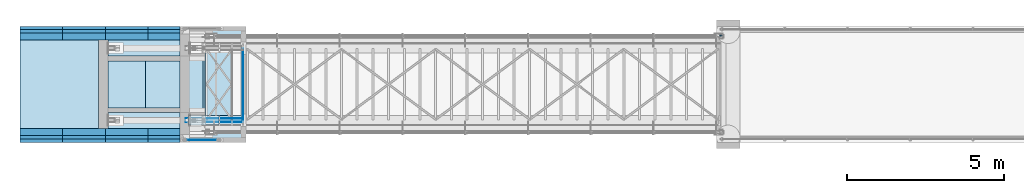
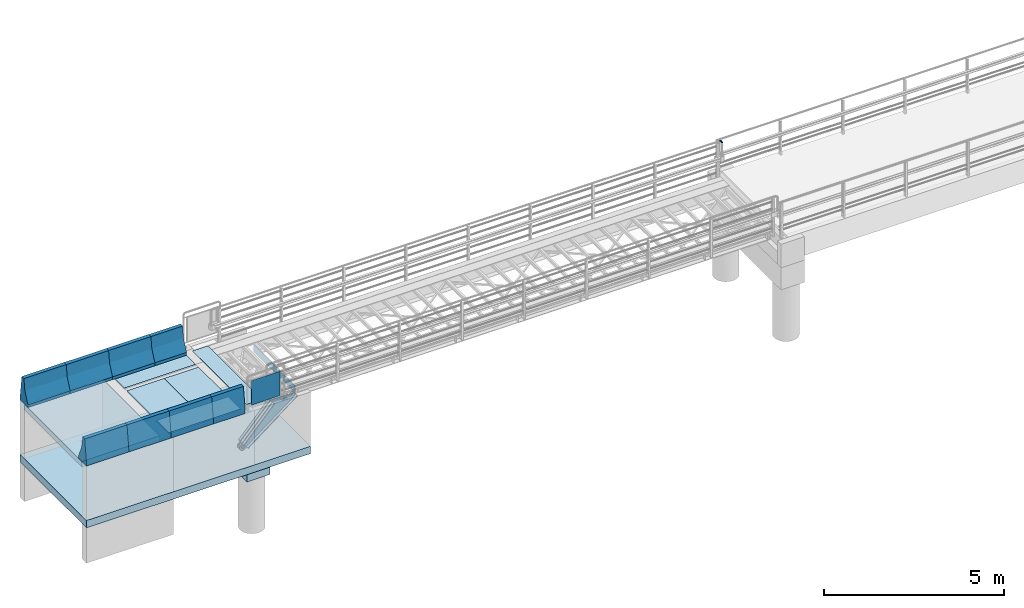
# One storey, part 25 of 31: 12 slabs, 10 plates, 1 beam.
"""IFC2X3 building model written with IfcOpenShell, lengths in millimetres."""

from ifc_helpers import new_model, si_unit, frame, origin_with_axes, place, context, subcontext, project, spatial, faceted_brep, material, type_object, element, save


model = new_model("IFC2X3")

# Units and contexts
model_context = context("Model", 3, precision=1e-05, world=origin_with_axes())
body_context = subcontext(model_context, "Body", "Model", "MODEL_VIEW")
ifc_project = project(units=[si_unit("LENGTHUNIT", "METRE", prefix="MILLI"), si_unit("AREAUNIT", "SQUARE_METRE"), si_unit("VOLUMEUNIT", "CUBIC_METRE"), si_unit("MASSUNIT", "GRAM", prefix="KILO"), si_unit("TIMEUNIT", "SECOND"), si_unit("PLANEANGLEUNIT", "RADIAN"), si_unit("SOLIDANGLEUNIT", "STERADIAN"), si_unit("THERMODYNAMICTEMPERATUREUNIT", "DEGREE_CELSIUS"), si_unit("LUMINOUSINTENSITYUNIT", "LUMEN")], contexts=[model_context])

# Site, building, storey
site_placement = place(None, origin_with_axes())
site = spatial("IfcSite", under=ifc_project, at=site_placement, Name="Undefined", CompositionType="ELEMENT")
building_placement = place(site_placement, origin_with_axes())
building = spatial("IfcBuilding", under=site, at=building_placement, Name="Undefined", CompositionType="ELEMENT")
storey_placement = place(building_placement, origin_with_axes())
storey = spatial("IfcBuildingStorey", under=building, at=storey_placement, Name="Undefined", CompositionType="ELEMENT", Elevation=0.0)

# Beam
ifc_material_1 = material(Name="STEEL/S355J2+N")
beam_type = type_object("IfcBeamType", Name="CFCHS60.3*3.2", PredefinedType="NOTDEFINED")
beam_placement = place(storey_placement, frame((19500.0, 2700.0, 1169.85), z_axis=(1.0, 0.0, 0.0), x_axis=(0.0, 0.0, -1.0)))
element("IfcBeam", 1, at=beam_placement, inside=storey, type_object=beam_type, material=ifc_material_1, Name="REKKVERK", context=body_context, shape_type="Brep", body=[
    faceted_brep([(11.5379054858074, -27.8549679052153, 0.0), (21.3192694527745, -21.3192694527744, 0.0), (23.9955348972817, -21.3192694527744, 16.8972750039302), (14.6929049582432, -27.8549679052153, 19.9198826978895), (31.7623597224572, -21.3192694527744, 32.1405270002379), (23.8490700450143, -27.8549679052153, 37.8898684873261), (43.8594729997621, -21.3192694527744, 44.2376402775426), (38.1101315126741, -27.8549679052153, 52.1509299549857), (59.10272499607, -21.3192694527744, 52.0044651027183), (56.0801173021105, -27.8549679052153, 61.3070950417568), (47.7010601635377, -11.5379054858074, 38.9501491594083), (61.1223668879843, -11.5379054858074, 45.7886465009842), (37.0498508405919, -11.5379054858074, 28.2989398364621), (30.2113534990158, -11.5379054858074, 14.8776331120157), (27.8549679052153, -11.5379054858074, 0.0), (30.1500000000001, 0.0, 0.0), (32.3940587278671, 0.0, 14.1684291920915), (38.9065708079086, 0.0, 26.9499538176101), (49.0500461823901, 0.0, 37.0934291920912), (61.8315708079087, 0.0, 43.6059412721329), (47.7010601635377, 11.5379054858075, 38.9501491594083), (61.1223668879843, 11.5379054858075, 45.7886465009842), (37.0498508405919, 11.5379054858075, 28.2989398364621), (30.2113534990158, 11.5379054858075, 14.8776331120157), (27.8549679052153, 11.5379054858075, 0.0), (21.3192694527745, 21.3192694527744, 0.0), (23.9955348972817, 21.3192694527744, 16.8972750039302), (31.7623597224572, 21.3192694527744, 32.1405270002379), (43.8594729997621, 21.3192694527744, 44.2376402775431), (59.10272499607, 21.3192694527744, 52.0044651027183), (38.1101315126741, 27.8549679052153, 52.1509299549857), (56.0801173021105, 27.8549679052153, 61.3070950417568), (23.8490700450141, 27.8549679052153, 37.8898684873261), (14.6929049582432, 27.8549679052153, 19.9198826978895), (11.5379054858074, 27.8549679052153, 0.0), (0.0, 30.15, 0.0), (3.71970476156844, 30.15, 23.485291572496), (14.514708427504, 30.15, 44.6716791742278), (31.3283208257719, 30.15, 61.485291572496), (52.514708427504, 30.15, 72.2802952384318), (24.54651013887, 27.8549679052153, 70.8196531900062), (48.9492995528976, 27.8549679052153, 83.2534954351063), (5.18034680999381, 27.8549679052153, 51.45348986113), (-7.25349543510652, 27.8549679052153, 27.0507004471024), (-11.5379054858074, 27.8549679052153, 0.0), (-21.3192694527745, 21.3192694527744, 0.0), (-16.556125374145, 21.3192694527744, 30.0733081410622), (-2.73294286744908, 21.3192694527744, 57.2028313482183), (18.7971686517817, 21.3192694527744, 78.7329428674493), (45.9266918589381, 21.3192694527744, 92.5561253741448), (14.9555814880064, 11.5379054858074, 84.0204339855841), (43.9070499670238, 11.5379054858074, 98.7719439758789), (-8.02043398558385, 11.5379054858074, 61.0444185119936), (-22.7719439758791, 11.5379054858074, 32.0929500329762), (-27.8549679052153, 11.5379054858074, 0.0), (-30.1500000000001, 0.0, 0.0), (-24.9546492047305, 0.0, 32.8021539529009), (-9.8771539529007, 0.0, 62.3934045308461), (13.6065954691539, 0.0, 85.8771539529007), (43.1978460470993, 0.0, 100.954649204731), (14.9555814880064, -11.5379054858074, 84.0204339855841), (43.9070499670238, -11.5379054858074, 98.7719439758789), (-8.02043398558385, -11.5379054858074, 61.0444185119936), (-22.7719439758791, -11.5379054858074, 32.0929500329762), (-27.8549679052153, -11.5379054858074, 0.0), (-21.3192694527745, -21.3192694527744, 0.0), (-16.556125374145, -21.3192694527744, 30.0733081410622), (-2.73294286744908, -21.3192694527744, 57.2028313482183), (18.7971686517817, -21.3192694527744, 78.7329428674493), (45.9266918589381, -21.3192694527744, 92.5561253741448), (24.54651013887, -27.8549679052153, 70.8196531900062), (48.9492995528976, -27.8549679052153, 83.2534954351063), (5.18034680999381, -27.8549679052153, 51.45348986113), (-7.25349543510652, -27.8549679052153, 27.0507004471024), (-11.5379054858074, -27.8549679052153, 0.0), (0.0, -30.15, 0.0), (3.71970476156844, -30.15, 23.485291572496), (14.514708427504, -30.15, 44.6716791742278), (31.3283208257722, -30.15, 61.485291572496), (52.514708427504, -30.15, 72.2802952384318), (76.0, -30.15, 76.0), (76.0, -27.8549679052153, 87.5379054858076), (76.0, -21.3192694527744, 97.3192694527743), (76.0, -11.5379054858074, 103.854967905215), (76.0, 0.0, 106.15), (76.0, 11.5379054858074, 103.854967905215), (76.0, 21.3192694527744, 97.3192694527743), (76.0, 27.8549679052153, 87.5379054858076), (76.0, 30.15, 76.0), (76.0, 27.8549679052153, 64.4620945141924), (76.0, 21.3192694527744, 54.6807305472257), (76.0, 11.5379054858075, 48.1450320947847), (76.0, 0.0, 45.8499999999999), (76.0, -11.5379054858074, 48.1450320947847), (76.0, -21.3192694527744, 54.6807305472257), (76.0, -27.8549679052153, 64.4620945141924), (10.3133185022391, -24.8985534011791, 0.0), (19.0565277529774, -19.0565277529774, 0.0), (24.8985534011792, -10.3133185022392, 0.0), (26.95, 0.0, 0.0), (24.8985534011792, 10.3133185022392, 0.0), (19.0565277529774, 19.0565277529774, 0.0), (10.3133185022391, 24.8985534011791, 0.0), (0.0, 26.95, 0.0), (-10.3133185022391, 24.8985534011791, 0.0), (-19.0565277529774, 19.0565277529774, 0.0), (-24.8985534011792, 10.3133185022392, 0.0), (-26.95, 0.0, 0.0), (-24.8985534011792, -10.3133185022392, 0.0), (-19.0565277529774, -19.0565277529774, 0.0), (-10.3133185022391, -24.8985534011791, 0.0), (0.0, -26.95, 0.0), (3.71970476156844, -26.95, 23.485291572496), (13.5282535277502, -24.8985534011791, 20.2983008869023), (21.8435396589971, -19.0565277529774, 17.5965006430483), (27.3996362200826, -10.3133185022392, 15.7912154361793), (29.3506778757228, 0.0, 15.1572835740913), (27.3996362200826, 10.3133185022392, 15.7912154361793), (21.8435396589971, 19.0565277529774, 17.5965006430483), (13.5282535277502, 24.8985534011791, 20.2983008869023), (3.71970476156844, 26.95, 23.485291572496), (-6.08884400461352, 24.8985534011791, 26.6722822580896), (-14.4041301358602, 19.0565277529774, 29.374082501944), (-19.9602266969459, 10.3133185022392, 31.1793677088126), (-21.9112683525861, 0.0, 31.8132995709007), (-19.9602266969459, -10.3133185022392, 31.1793677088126), (-14.4041301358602, -19.0565277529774, 29.374082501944), (-6.08884400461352, -24.8985534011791, 26.6722822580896), (6.17105849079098, -24.8985534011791, 50.7336956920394), (14.514708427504, -26.95, 44.6716791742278), (22.8583583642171, -24.8985534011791, 38.6096626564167), (29.9317632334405, -19.0565277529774, 33.4705332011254), (34.6580612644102, -10.3133185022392, 30.0366766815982), (36.3177164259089, 0.0, 28.8308666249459), (34.6580612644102, 10.3133185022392, 30.0366766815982), (29.9317632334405, 19.0565277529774, 33.4705332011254), (22.8583583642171, 24.8985534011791, 38.6096626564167), (14.514708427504, 26.95, 44.6716791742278), (6.17105849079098, 24.8985534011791, 50.7336956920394), (-0.90234637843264, 19.0565277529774, 55.8728251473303), (-5.62864440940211, 10.3133185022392, 59.3066816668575), (-7.28829957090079, 0.0, 60.5124917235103), (-5.62864440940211, -10.3133185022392, 59.3066816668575), (-0.90234637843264, -19.0565277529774, 55.8728251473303), (20.1271748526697, -19.0565277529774, 76.9023463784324), (25.2663043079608, -24.8985534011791, 69.828941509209), (31.3283208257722, -26.95, 61.485291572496), (37.3903373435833, -24.8985534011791, 53.1416416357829), (42.5294667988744, -19.0565277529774, 46.0682367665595), (45.9633233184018, -10.3133185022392, 41.3419387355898), (47.1691333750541, 0.0, 39.6822835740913), (45.9633233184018, 10.3133185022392, 41.3419387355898), (42.5294667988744, 19.0565277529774, 46.0682367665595), (37.3903373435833, 24.8985534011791, 53.1416416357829), (31.3283208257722, 26.95, 61.485291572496), (25.2663043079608, 24.8985534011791, 69.828941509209), (20.1271748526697, 19.0565277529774, 76.9023463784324), (16.6933183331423, 10.3133185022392, 81.6286444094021), (15.48750827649, 0.0, 83.288299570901), (16.6933183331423, -10.3133185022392, 81.6286444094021), (44.8206322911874, -10.3133185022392, 95.9602266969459), (46.6259174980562, -19.0565277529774, 90.4041301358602), (49.3277177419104, -24.8985534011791, 82.0888440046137), (52.514708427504, -26.95, 72.2802952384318), (55.7016991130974, -24.8985534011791, 62.4717464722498), (58.4034993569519, -19.0565277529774, 54.1564603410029), (60.2087845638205, -10.3133185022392, 48.6003637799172), (60.8427164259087, 0.0, 46.6493221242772), (60.2087845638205, 10.3133185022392, 48.6003637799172), (58.4034993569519, 19.0565277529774, 54.1564603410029), (55.7016991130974, 24.8985534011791, 62.4717464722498), (52.514708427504, 26.95, 72.2802952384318), (49.3277177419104, 24.8985534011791, 82.0888440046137), (46.6259174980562, 19.0565277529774, 90.4041301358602), (44.8206322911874, 10.3133185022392, 95.9602266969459), (44.1867004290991, 0.0, 97.9112683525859), (76.0, 0.0, 102.95), (76.0, -10.3133185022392, 100.898553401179), (76.0, -19.0565277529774, 95.0565277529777), (76.0, -24.8985534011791, 86.3133185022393), (76.0, -26.95, 76.0), (76.0, -24.8985534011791, 65.6866814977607), (76.0, -19.0565277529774, 56.9434722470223), (76.0, -10.3133185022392, 51.101446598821), (76.0, 0.0, 49.0500000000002), (76.0, 10.3133185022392, 51.101446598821), (76.0, 19.0565277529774, 56.9434722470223), (76.0, 24.8985534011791, 65.6866814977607), (76.0, 26.95, 76.0), (76.0, 24.8985534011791, 86.3133185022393), (76.0, 19.0565277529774, 95.0565277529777), (76.0, 10.3133185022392, 100.898553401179)], [[[0, 1, 2, 3]], [[3, 2, 4, 5]], [[5, 4, 6, 7]], [[7, 6, 8, 9]], [[6, 10, 11, 8]], [[4, 12, 10, 6]], [[2, 13, 12, 4]], [[1, 14, 13, 2]], [[14, 15, 16, 13]], [[13, 16, 17, 12]], [[12, 17, 18, 10]], [[10, 18, 19, 11]], [[18, 20, 21, 19]], [[17, 22, 20, 18]], [[16, 23, 22, 17]], [[15, 24, 23, 16]], [[24, 25, 26, 23]], [[23, 26, 27, 22]], [[22, 27, 28, 20]], [[20, 28, 29, 21]], [[28, 30, 31, 29]], [[27, 32, 30, 28]], [[26, 33, 32, 27]], [[25, 34, 33, 26]], [[34, 35, 36, 33]], [[33, 36, 37, 32]], [[32, 37, 38, 30]], [[30, 38, 39, 31]], [[38, 40, 41, 39]], [[37, 42, 40, 38]], [[36, 43, 42, 37]], [[35, 44, 43, 36]], [[44, 45, 46, 43]], [[43, 46, 47, 42]], [[42, 47, 48, 40]], [[40, 48, 49, 41]], [[48, 50, 51, 49]], [[47, 52, 50, 48]], [[46, 53, 52, 47]], [[45, 54, 53, 46]], [[54, 55, 56, 53]], [[53, 56, 57, 52]], [[52, 57, 58, 50]], [[50, 58, 59, 51]], [[58, 60, 61, 59]], [[57, 62, 60, 58]], [[56, 63, 62, 57]], [[55, 64, 63, 56]], [[64, 65, 66, 63]], [[63, 66, 67, 62]], [[62, 67, 68, 60]], [[60, 68, 69, 61]], [[68, 70, 71, 69]], [[67, 72, 70, 68]], [[66, 73, 72, 67]], [[65, 74, 73, 66]], [[74, 75, 76, 73]], [[73, 76, 77, 72]], [[72, 77, 78, 70]], [[70, 78, 79, 71]], [[71, 79, 80, 81]], [[69, 71, 81, 82]], [[61, 69, 82, 83]], [[59, 61, 83, 84]], [[51, 59, 84, 85]], [[49, 51, 85, 86]], [[41, 49, 86, 87]], [[39, 41, 87, 88]], [[31, 39, 88, 89]], [[29, 31, 89, 90]], [[21, 29, 90, 91]], [[19, 21, 91, 92]], [[11, 19, 92, 93]], [[8, 11, 93, 94]], [[9, 8, 94, 95]], [[79, 9, 95, 80]], [[78, 7, 9, 79]], [[77, 5, 7, 78]], [[76, 3, 5, 77]], [[75, 0, 3, 76]], [[74, 65, 64, 55, 54, 45, 44, 35, 34, 25, 24, 15, 14, 1, 0, 75], [96, 97, 98, 99, 100, 101, 102, 103, 104, 105, 106, 107, 108, 109, 110, 111]], [[96, 111, 112, 113]], [[97, 96, 113, 114]], [[98, 97, 114, 115]], [[99, 98, 115, 116]], [[100, 99, 116, 117]], [[101, 100, 117, 118]], [[102, 101, 118, 119]], [[103, 102, 119, 120]], [[104, 103, 120, 121]], [[105, 104, 121, 122]], [[106, 105, 122, 123]], [[107, 106, 123, 124]], [[108, 107, 124, 125]], [[109, 108, 125, 126]], [[110, 109, 126, 127]], [[111, 110, 127, 112]], [[112, 127, 128, 129]], [[113, 112, 129, 130]], [[114, 113, 130, 131]], [[115, 114, 131, 132]], [[116, 115, 132, 133]], [[117, 116, 133, 134]], [[118, 117, 134, 135]], [[119, 118, 135, 136]], [[120, 119, 136, 137]], [[121, 120, 137, 138]], [[122, 121, 138, 139]], [[123, 122, 139, 140]], [[124, 123, 140, 141]], [[125, 124, 141, 142]], [[126, 125, 142, 143]], [[127, 126, 143, 128]], [[128, 143, 144, 145]], [[129, 128, 145, 146]], [[130, 129, 146, 147]], [[131, 130, 147, 148]], [[132, 131, 148, 149]], [[133, 132, 149, 150]], [[134, 133, 150, 151]], [[135, 134, 151, 152]], [[136, 135, 152, 153]], [[137, 136, 153, 154]], [[138, 137, 154, 155]], [[139, 138, 155, 156]], [[140, 139, 156, 157]], [[141, 140, 157, 158]], [[142, 141, 158, 159]], [[143, 142, 159, 144]], [[144, 159, 160, 161]], [[145, 144, 161, 162]], [[146, 145, 162, 163]], [[147, 146, 163, 164]], [[148, 147, 164, 165]], [[149, 148, 165, 166]], [[150, 149, 166, 167]], [[151, 150, 167, 168]], [[152, 151, 168, 169]], [[153, 152, 169, 170]], [[154, 153, 170, 171]], [[155, 154, 171, 172]], [[156, 155, 172, 173]], [[157, 156, 173, 174]], [[158, 157, 174, 175]], [[159, 158, 175, 160]], [[160, 175, 176, 177]], [[161, 160, 177, 178]], [[162, 161, 178, 179]], [[163, 162, 179, 180]], [[164, 163, 180, 181]], [[165, 164, 181, 182]], [[166, 165, 182, 183]], [[167, 166, 183, 184]], [[168, 167, 184, 185]], [[169, 168, 185, 186]], [[170, 169, 186, 187]], [[171, 170, 187, 188]], [[172, 171, 188, 189]], [[173, 172, 189, 190]], [[174, 173, 190, 191]], [[175, 174, 191, 176]], [[82, 81, 80, 95, 94, 93, 92, 91, 90, 89, 88, 87, 86, 85, 84, 83], [190, 189, 188, 187, 186, 185, 184, 183, 182, 181, 180, 179, 178, 177, 176, 191]]]),
])

# Plates
plate_type_1 = type_object("IfcPlateType", Name="PL20*300", PredefinedType="NOTDEFINED")
plate_1_placement = place(storey_placement, frame((3557.40431160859, -150.000339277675, -446.714222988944), z_axis=(2.50193930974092e-05, 0.999999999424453, -2.29155708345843e-05), x_axis=(-0.675422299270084, 0.0, -0.737431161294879)))
element("IfcPlate", 2, at=plate_1_placement, inside=storey, type_object=plate_type_1, material=ifc_material_1, Name="PLATE", context=body_context, shape_type="Brep", body=[
    faceted_brep([(-9.09494701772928e-13, -9.99999999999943, 0.0), (0.0425038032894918, -9.99999999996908, 300.005672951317), (0.042503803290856, 10.0000000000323, 300.005672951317), (1.36424205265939e-12, 9.99999999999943, 0.0), (1443.34879351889, -10.0000000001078, 299.999999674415), (1443.34879351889, 9.99999999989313, 299.999999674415), (1443.36276946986, -10.0000000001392, -4.76916284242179e-11), (1443.36276946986, 9.99999999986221, -4.77200501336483e-11)], [[[0, 1, 2, 3]], [[1, 4, 5, 2]], [[4, 6, 7, 5]], [[6, 0, 3, 7]], [[5, 7, 3, 2]], [[6, 4, 1, 0]]]),
])
plate_2_placement = place(storey_placement, frame((4313.94299101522, -150.0, -432.043075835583), z_axis=(0.0, 1.0, 0.0), x_axis=(-0.795692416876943, 0.0, -0.605700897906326)))
element("IfcPlate", 3, at=plate_2_placement, inside=storey, type_object=plate_type_1, material=ifc_material_1, Name="PLATE", context=body_context, shape_type="Brep", body=[
    faceted_brep([(2024.92011222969, -10.0000000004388, 300.0), (2024.9201122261, -10.0000000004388, 0.0), (2024.92011222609, 9.99999999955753, 0.0), (2024.92011222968, 9.99999999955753, 300.0), (26.2734451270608, 9.99999999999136, 300.0), (5.00222085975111e-11, -9.99999999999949, 299.999999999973), (-9.09494701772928e-13, -9.99999999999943, 0.0), (26.2734451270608, 9.99999999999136, 0.0)], [[[0, 1, 2, 3]], [[0, 3, 4, 5]], [[1, 0, 5, 6]], [[2, 1, 6, 7]], [[3, 2, 7, 4]], [[6, 5, 4, 7]]]),
])
plate_type_2 = type_object("IfcPlateType", Name="PL1*830", PredefinedType="NOTDEFINED")
plate_3_placement = place(storey_placement, frame((2537.745, -625.5, 155.0), z_axis=(0.0, 0.0, 1.0), x_axis=(1.0, 0.0, 0.0)))
element("IfcPlate", 4, at=plate_3_placement, inside=storey, type_object=plate_type_2, material=ifc_material_1, Name="LKBRØYTETETTPANEL", context=body_context, shape_type="Brep", body=[
    faceted_brep([(0.0, -0.5, 0.0), (0.0, -0.5, 830.0), (0.0, 0.5, 830.0), (0.0, 0.5, 0.0), (920.0, -0.5, 830.0), (920.0, 0.5, 830.0), (920.0, -0.5, 0.0), (920.0, 0.5, 0.0)], [[[0, 1, 2, 3]], [[1, 4, 5, 2]], [[4, 6, 7, 5]], [[6, 0, 3, 7]], [[5, 7, 3, 2]], [[6, 4, 1, 0]]]),
])

# Slabs
ifc_material_2 = material(Name="CONCRETE/B35")
slab_type_1 = type_object("IfcSlabType", Name="1360*860", PredefinedType="NOTDEFINED")
for number, where, z_axis, x_axis in (
    (5, (-2120.0, 2999.99999952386, 99.9999999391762), (0.0, -0.99999999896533, 4.54899999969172e-05), (0.0, -4.54899999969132e-05, -0.99999999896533)),
    (6, (-760.0, 2999.99999952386, 99.9999999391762), (0.0, -0.99999999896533, 4.54899999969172e-05), (0.0, -4.54899999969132e-05, -0.99999999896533)),
    (7, (600.0, 2999.99999952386, 99.9999999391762), (0.0, -0.99999999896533, 4.54899999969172e-05), (0.0, -4.54899999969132e-05, -0.99999999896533)),
    (8, (600.0, -699.999999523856, 99.9999999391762), (0.0, 0.99999999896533, 4.5489999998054e-05), (0.0, 4.54899999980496e-05, -0.99999999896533)),
    (9, (-760.0, -699.999999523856, 99.9999999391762), (0.0, 0.99999999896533, 4.5489999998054e-05), (0.0, 4.54899999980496e-05, -0.99999999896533)),
    (10, (-2120.0, -699.999999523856, 99.9999999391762), (0.0, 0.99999999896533, 4.5489999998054e-05), (0.0, 4.54899999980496e-05, -0.99999999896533)),
):
    element("IfcSlab", number, at=place(storey_placement, frame(where, z_axis=z_axis, x_axis=x_axis)), inside=storey, type_object=slab_type_1, material=ifc_material_2, Name="NEWJERSEY", PredefinedType="NOTDEFINED", context=body_context, shape_type="Brep", body=[
        faceted_brep([(-1.4210854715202e-14, -680.0, 0.0), (-759.995450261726, -680.0, 100.034571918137), (-759.995450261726, 680.0, 100.034571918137), (-1.4210854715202e-14, 680.0, 0.0), (-759.989991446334, -680.0, 220.034571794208), (-759.989991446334, 680.0, 220.034571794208), (-379.989542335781, -680.0, 270.020679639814), (-379.989542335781, 680.0, 270.020679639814), (0.0200155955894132, -680.0, 439.999999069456), (0.0200155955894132, 680.0, 439.999999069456), (100.02001549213, -680.0, 439.995450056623), (100.02001549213, 680.0, 439.995450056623), (99.9954296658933, -680.0, 5.45696821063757e-12), (99.9954296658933, 680.0, 5.45696821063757e-12)], [[[0, 1, 2, 3]], [[1, 4, 5, 2]], [[4, 6, 7, 5]], [[6, 8, 9, 7]], [[8, 10, 11, 9]], [[10, 12, 13, 11]], [[12, 0, 3, 13]], [[5, 7, 9, 11, 13, 3, 2]], [[12, 10, 8, 6, 4, 1, 0]]]),
    ])
slab_type_2 = type_object("IfcSlabType", Name="1020*860", PredefinedType="NOTDEFINED")
for number, where, z_axis, x_axis in (
    (11, (1790.0, 2999.99999952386, 99.9999999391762), (0.0, -0.99999999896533, 4.54899999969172e-05), (0.0, -4.54899999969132e-05, -0.99999999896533)),
    (12, (1790.0, -699.999999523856, 99.9999999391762), (0.0, 0.99999999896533, 4.5489999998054e-05), (0.0, 4.54899999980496e-05, -0.99999999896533)),
):
    element("IfcSlab", number, at=place(storey_placement, frame(where, z_axis=z_axis, x_axis=x_axis)), inside=storey, type_object=slab_type_2, material=ifc_material_2, Name="NEWJERSEY", PredefinedType="NOTDEFINED", context=body_context, shape_type="Brep", body=[
        faceted_brep([(-1.4210854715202e-14, -510.0, 0.0), (-759.995450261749, -510.0, 100.034571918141), (-759.995450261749, 510.0, 100.034571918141), (-1.4210854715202e-14, 510.0, 0.0), (-759.989991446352, -510.0, 220.034571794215), (-759.989991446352, 510.0, 220.034571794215), (-379.989542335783, -510.0, 270.020679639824), (-379.989542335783, 510.0, 270.020679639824), (0.0200155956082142, -510.0, 439.999999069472), (0.0200155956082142, 510.0, 439.999999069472), (100.020015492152, -510.0, 439.995450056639), (100.020015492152, 510.0, 439.995450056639), (99.995429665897, -510.0, 5.45696821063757e-12), (99.995429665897, 510.0, 5.45696821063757e-12)], [[[0, 1, 2, 3]], [[1, 4, 5, 2]], [[4, 6, 7, 5]], [[6, 8, 9, 7]], [[8, 10, 11, 9]], [[10, 12, 13, 11]], [[12, 0, 3, 13]], [[5, 7, 9, 11, 13, 3, 2]], [[12, 10, 8, 6, 4, 1, 0]]]),
    ])

# Plates
plate_type_3 = type_object("IfcPlateType", Name="PL18*466", PredefinedType="NOTDEFINED")
plate_4_placement = place(storey_placement, frame((2577.43360777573, -57.0, -1766.48496739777), z_axis=(-0.605700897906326, 0.0, 0.795692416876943), x_axis=(0.795692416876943, 0.0, 0.605700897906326)))
element("IfcPlate", 13, at=plate_4_placement, inside=storey, type_object=plate_type_3, material=ifc_material_1, Name="PLATE", context=body_context, shape_type="Brep", body=[
    faceted_brep([(163.504970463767, -9.0, 83.3247599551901), (163.504970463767, 9.0, 83.3247599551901), (154.611295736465, 9.0, 66.7931044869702), (154.611295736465, -9.0, 66.7931044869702), (141.044345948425, 9.0, 53.8188624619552), (141.044345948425, -9.0, 53.8188624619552), (124.132148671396, 9.0, 45.6720430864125), (124.132148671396, -9.0, 45.6720430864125), (105.530187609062, 9.0, 43.150113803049), (105.530187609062, -9.0, 43.150113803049), (87.0593523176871, 9.0, 46.4999386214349), (87.0593523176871, -9.0, 46.4999386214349), (70.5276968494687, 9.0, 55.3936133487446), (70.5276968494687, -9.0, 55.3936133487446), (57.5534548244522, 9.0, 68.960563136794), (57.5534548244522, -9.0, 68.960563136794), (49.4066354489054, 9.0, 85.8727604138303), (49.4066354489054, -9.0, 85.8727604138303), (46.8847061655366, 9.0, 104.47472147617), (46.8847061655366, -9.0, 104.47472147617), (50.2345309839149, 9.0, 122.945556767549), (50.2345309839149, -9.0, 122.945556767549), (59.1282057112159, 9.0, 139.477212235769), (59.1282057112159, -9.0, 139.477212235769), (72.6951554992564, 9.0, 152.451454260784), (72.6951554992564, -9.0, 152.451454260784), (89.6073527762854, 9.0, 160.598273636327), (89.6073527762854, -9.0, 160.598273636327), (108.20931383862, 9.0, 163.12020291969), (108.20931383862, -9.0, 163.12020291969), (126.680149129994, 9.0, 159.770378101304), (126.680149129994, -9.0, 159.770378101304), (143.211804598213, 9.0, 150.876703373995), (143.211804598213, -9.0, 150.876703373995), (156.186046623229, 9.0, 137.309753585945), (156.186046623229, -9.0, 137.309753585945), (164.332865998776, 9.0, 120.397556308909), (164.332865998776, -9.0, 120.397556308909), (166.854795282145, 9.0, 101.795595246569), (166.854795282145, -9.0, 101.795595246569), (-0.0275781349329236, -9.0, 48.08983912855), (19.9856895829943, -9.0, 22.5915622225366), (47.7342715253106, -9.0, 5.83718338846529), (79.6187552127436, -9.0, -1.00044417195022e-11), (2189.99999999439, -9.0, -2.72848410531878e-10), (1577.31683933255, -9.0, 466.389691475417), (61.8801634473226, -9.0, 192.804490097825), (30.275079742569, -9.0, 180.621837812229), (5.41136707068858, -9.0, 157.619791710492), (-9.18923430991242, -9.0, 127.056402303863), (-11.4586693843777, -9.0, 93.2607221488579), (-9.70950687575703, -9.0, 79.0245003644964), (-9.70950687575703, 9.0, 79.0245003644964), (-0.0275781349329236, 9.0, 48.08983912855), (19.9856895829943, 9.0, 22.5915622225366), (47.7342715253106, 9.0, 5.83718338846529), (79.6187552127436, 9.0, -1.00044417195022e-11), (2189.99999999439, 9.0, -2.72848410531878e-10), (1577.31683933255, 9.0, 466.389691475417), (61.8801634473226, 9.0, 192.804490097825), (30.275079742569, 9.0, 180.621837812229), (5.41136707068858, 9.0, 157.619791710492), (-9.18923430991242, 9.0, 127.056402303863), (-11.4586693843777, 9.0, 93.2607221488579)], [[[0, 1, 2, 3]], [[3, 2, 4, 5]], [[5, 4, 6, 7]], [[7, 6, 8, 9]], [[9, 8, 10, 11]], [[11, 10, 12, 13]], [[13, 12, 14, 15]], [[15, 14, 16, 17]], [[17, 16, 18, 19]], [[19, 18, 20, 21]], [[21, 20, 22, 23]], [[23, 22, 24, 25]], [[25, 24, 26, 27]], [[27, 26, 28, 29]], [[29, 28, 30, 31]], [[31, 30, 32, 33]], [[33, 32, 34, 35]], [[35, 34, 36, 37]], [[37, 36, 38, 39]], [[39, 38, 1, 0]], [[40, 41, 42, 43, 44, 45, 46, 47, 48, 49, 50, 51], [3, 5, 7, 9, 11, 13, 15, 17, 19, 21, 23, 25, 27, 29, 31, 33, 35, 37, 39, 0]], [[40, 51, 52, 53]], [[41, 40, 53, 54]], [[42, 41, 54, 55]], [[43, 42, 55, 56]], [[44, 43, 56, 57]], [[45, 44, 57, 58]], [[46, 45, 58, 59]], [[47, 46, 59, 60]], [[48, 47, 60, 61]], [[49, 48, 61, 62]], [[50, 49, 62, 63]], [[51, 50, 63, 52]], [[62, 61, 60, 59, 58, 57, 56, 55, 54, 53, 52, 63], [34, 32, 30, 28, 26, 24, 22, 20, 18, 16, 14, 12, 10, 8, 6, 4, 2, 1, 38, 36]]]),
])
plate_5_placement = place(storey_placement, frame((2577.43360777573, 57.0, -1766.48496739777), z_axis=(-0.605700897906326, 0.0, 0.795692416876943), x_axis=(0.795692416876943, 0.0, 0.605700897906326)))
element("IfcPlate", 14, at=plate_5_placement, inside=storey, type_object=plate_type_3, material=ifc_material_1, Name="PLATE", context=body_context, shape_type="Brep", body=[
    faceted_brep([(163.504970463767, -9.0, 83.3247599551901), (163.504970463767, 9.0, 83.3247599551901), (154.611295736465, 9.0, 66.7931044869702), (154.611295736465, -9.0, 66.7931044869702), (141.044345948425, 9.0, 53.8188624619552), (141.044345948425, -9.0, 53.8188624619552), (124.132148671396, 9.0, 45.6720430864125), (124.132148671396, -9.0, 45.6720430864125), (105.530187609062, 9.0, 43.150113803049), (105.530187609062, -9.0, 43.150113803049), (87.0593523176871, 9.0, 46.4999386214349), (87.0593523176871, -9.0, 46.4999386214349), (70.5276968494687, 9.0, 55.3936133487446), (70.5276968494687, -9.0, 55.3936133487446), (57.5534548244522, 9.0, 68.960563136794), (57.5534548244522, -9.0, 68.960563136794), (49.4066354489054, 9.0, 85.8727604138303), (49.4066354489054, -9.0, 85.8727604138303), (46.8847061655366, 9.0, 104.47472147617), (46.8847061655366, -9.0, 104.47472147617), (50.2345309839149, 9.0, 122.945556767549), (50.2345309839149, -9.0, 122.945556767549), (59.1282057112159, 9.0, 139.477212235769), (59.1282057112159, -9.0, 139.477212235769), (72.6951554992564, 9.0, 152.451454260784), (72.6951554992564, -9.0, 152.451454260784), (89.6073527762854, 9.0, 160.598273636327), (89.6073527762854, -9.0, 160.598273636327), (108.20931383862, 9.0, 163.12020291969), (108.20931383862, -9.0, 163.12020291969), (126.680149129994, 9.0, 159.770378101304), (126.680149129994, -9.0, 159.770378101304), (143.211804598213, 9.0, 150.876703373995), (143.211804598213, -9.0, 150.876703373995), (156.186046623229, 9.0, 137.309753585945), (156.186046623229, -9.0, 137.309753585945), (164.332865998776, 9.0, 120.397556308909), (164.332865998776, -9.0, 120.397556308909), (166.854795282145, 9.0, 101.795595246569), (166.854795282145, -9.0, 101.795595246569), (-0.0275781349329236, -9.0, 48.08983912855), (19.9856895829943, -9.0, 22.5915622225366), (47.7342715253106, -9.0, 5.83718338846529), (79.6187552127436, -9.0, -1.00044417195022e-11), (2189.99999999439, -9.0, -2.72848410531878e-10), (1577.31683933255, -9.0, 466.389691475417), (61.8801634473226, -9.0, 192.804490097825), (30.275079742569, -9.0, 180.621837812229), (5.41136707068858, -9.0, 157.619791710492), (-9.18923430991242, -9.0, 127.056402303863), (-11.4586693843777, -9.0, 93.2607221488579), (-9.70950687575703, -9.0, 79.0245003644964), (-9.70950687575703, 9.0, 79.0245003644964), (-0.0275781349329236, 9.0, 48.08983912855), (19.9856895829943, 9.0, 22.5915622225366), (47.7342715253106, 9.0, 5.83718338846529), (79.6187552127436, 9.0, -1.00044417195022e-11), (2189.99999999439, 9.0, -2.72848410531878e-10), (1577.31683933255, 9.0, 466.389691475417), (61.8801634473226, 9.0, 192.804490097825), (30.275079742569, 9.0, 180.621837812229), (5.41136707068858, 9.0, 157.619791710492), (-9.18923430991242, 9.0, 127.056402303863), (-11.4586693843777, 9.0, 93.2607221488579)], [[[0, 1, 2, 3]], [[3, 2, 4, 5]], [[5, 4, 6, 7]], [[7, 6, 8, 9]], [[9, 8, 10, 11]], [[11, 10, 12, 13]], [[13, 12, 14, 15]], [[15, 14, 16, 17]], [[17, 16, 18, 19]], [[19, 18, 20, 21]], [[21, 20, 22, 23]], [[23, 22, 24, 25]], [[25, 24, 26, 27]], [[27, 26, 28, 29]], [[29, 28, 30, 31]], [[31, 30, 32, 33]], [[33, 32, 34, 35]], [[35, 34, 36, 37]], [[37, 36, 38, 39]], [[39, 38, 1, 0]], [[40, 41, 42, 43, 44, 45, 46, 47, 48, 49, 50, 51], [3, 5, 7, 9, 11, 13, 15, 17, 19, 21, 23, 25, 27, 29, 31, 33, 35, 37, 39, 0]], [[40, 51, 52, 53]], [[41, 40, 53, 54]], [[42, 41, 54, 55]], [[43, 42, 55, 56]], [[44, 43, 56, 57]], [[45, 44, 57, 58]], [[46, 45, 58, 59]], [[47, 46, 59, 60]], [[48, 47, 60, 61]], [[49, 48, 61, 62]], [[50, 49, 62, 63]], [[51, 50, 63, 52]], [[62, 61, 60, 59, 58, 57, 56, 55, 54, 53, 52, 63], [34, 32, 30, 28, 26, 24, 22, 20, 18, 16, 14, 12, 10, 8, 6, 4, 2, 1, 38, 36]]]),
])
plate_type_4 = type_object("IfcPlateType", Name="PL10*500", PredefinedType="NOTDEFINED")
plate_6_placement = place(storey_placement, frame((2537.01, 2650.0, 5.0), z_axis=(1.0, 0.0, 0.0), x_axis=(0.0, -1.0, 0.0)))
element("IfcPlate", 15, at=plate_6_placement, inside=storey, type_object=plate_type_4, material=ifc_material_1, Name="OVERGANGSPLATE", context=body_context, shape_type="Brep", body=[
    faceted_brep([(0.0, -5.0, 0.0), (0.0, -5.0, 500.0), (0.0, 5.0, 500.0), (0.0, 5.0, 0.0), (3000.0, -5.0, 500.0), (3000.0, 5.0, 500.0), (3000.0, -5.0, 0.0), (3000.0, 5.0, 0.0)], [[[0, 1, 2, 3]], [[1, 4, 5, 2]], [[4, 6, 7, 5]], [[6, 0, 3, 7]], [[5, 7, 3, 2]], [[6, 4, 1, 0]]]),
])

# Slabs
slab_type_3 = type_object("IfcSlabType", Name="200*2500", PredefinedType="NOTDEFINED")
slab_1_placement = place(storey_placement, frame((-300.0, 2750.0, -100.0), z_axis=(0.0, -1.0, 0.0), x_axis=(-1.0, 0.0, 0.0)))
element("IfcSlab", 16, at=slab_1_placement, inside=storey, type_object=slab_type_3, material=ifc_material_2, Name="PLASSTØPTDEKKE", PredefinedType="NOTDEFINED", context=body_context, shape_type="Brep", body=[
    faceted_brep([(0.0, -100.0, 0.0), (0.0, -100.0, 3200.0), (0.0, 100.0, 3200.0), (0.0, 100.0, 0.0), (2500.0, -100.0, 3200.0), (2500.0, 100.0, 3200.0), (2500.0, -100.0, 0.0), (2500.0, 100.0, 0.0)], [[[0, 1, 2, 3]], [[1, 4, 5, 2]], [[4, 6, 7, 5]], [[6, 0, 3, 7]], [[5, 7, 3, 2]], [[6, 4, 1, 0]]]),
])
slab_type_4 = type_object("IfcSlabType", Name="200*1100", PredefinedType="NOTDEFINED")
slab_2_placement = place(storey_placement, frame((2300.0, 1900.0, -100.0), z_axis=(0.0, -1.0, 0.0), x_axis=(-1.0, 0.0, 0.0)))
element("IfcSlab", 17, at=slab_2_placement, inside=storey, type_object=slab_type_4, material=ifc_material_2, Name="PLASSTØPTDEKKE", PredefinedType="NOTDEFINED", context=body_context, shape_type="Brep", body=[
    faceted_brep([(0.0, -100.0, 0.0), (0.0, -100.0, 1500.0), (0.0, 100.0, 1500.0), (0.0, 100.0, 0.0), (1100.0, -100.0, 1500.0), (1100.0, 100.0, 1500.0), (1100.0, -100.0, 0.0), (1100.0, 100.0, 0.0)], [[[0, 1, 2, 3]], [[1, 4, 5, 2]], [[4, 6, 7, 5]], [[6, 0, 3, 7]], [[5, 7, 3, 2]], [[6, 4, 1, 0]]]),
])

# Plates
plate_type_5 = type_object("IfcPlateType", Name="PL50*700", PredefinedType="NOTDEFINED")
for number, where, z_axis, x_axis in (
    (18, (2300.0, 250.0, -25.0), (0.0, -1.0, 0.0), (-1.0, 0.0, 0.0)),
    (19, (2300.0, 2750.0, -25.0), (0.0, -1.0, 0.0), (-1.0, 0.0, 0.0)),
):
    element("IfcPlate", number, at=place(storey_placement, frame(where, z_axis=z_axis, x_axis=x_axis)), inside=storey, type_object=plate_type_5, material=ifc_material_1, Name="LUKE", context=body_context, shape_type="Brep", body=[
        faceted_brep([(0.0, -25.0, 0.0), (0.0, -25.0, 700.0), (0.0, 25.0, 700.0), (0.0, 25.0, 0.0), (2300.0, -25.0, 700.0), (2300.0, 25.0, 700.0), (2300.0, -25.0, 0.0), (2300.0, 25.0, 0.0)], [[[0, 1, 2, 3]], [[1, 4, 5, 2]], [[4, 6, 7, 5]], [[6, 0, 3, 7]], [[5, 7, 3, 2]], [[6, 4, 1, 0]]]),
    ])
plate_type_6 = type_object("IfcPlateType", Name="PL50*1200", PredefinedType="NOTDEFINED")
plate_7_placement = place(storey_placement, frame((0.0, 1900.0, -25.0), z_axis=(1.0, 0.0, 0.0), x_axis=(0.0, -1.0, 0.0)))
element("IfcPlate", 20, at=plate_7_placement, inside=storey, type_object=plate_type_6, material=ifc_material_1, Name="LUKE", context=body_context, shape_type="Brep", body=[
    faceted_brep([(0.0, -25.0, 0.0), (0.0, -25.0, 1200.0), (0.0, 25.0, 1200.0), (0.0, 25.0, 0.0), (1500.0, -25.0, 1200.0), (1500.0, 25.0, 1200.0), (1500.0, -25.0, 0.0), (1500.0, 25.0, 0.0)], [[[0, 1, 2, 3]], [[1, 4, 5, 2]], [[4, 6, 7, 5]], [[6, 0, 3, 7]], [[5, 7, 3, 2]], [[6, 4, 1, 0]]]),
])

# Slabs
slab_type_5 = type_object("IfcSlabType", Name="250*750", PredefinedType="NOTDEFINED")
slab_3_placement = place(storey_placement, frame((2350.0, 3000.0, -2225.0), z_axis=(1.0, 0.0, 0.0), x_axis=(0.0, -1.0, 0.0)))
element("IfcSlab", 21, at=slab_3_placement, inside=storey, type_object=slab_type_5, material=ifc_material_2, Name="PLASSTØPTDEKKE", PredefinedType="NOTDEFINED", context=body_context, shape_type="Brep", body=[
    faceted_brep([(0.0, -125.0, 0.0), (0.0, -125.0, 750.0), (0.0, 125.0, 750.0), (0.0, 125.0, 0.0), (3700.0, -125.0, 750.0), (3700.0, 125.0, 750.0), (3700.0, -125.0, 0.0), (3700.0, 125.0, 0.0)], [[[0, 1, 2, 3]], [[1, 4, 5, 2]], [[4, 6, 7, 5]], [[6, 0, 3, 7]], [[5, 7, 3, 2]], [[6, 4, 1, 0]]]),
])
slab_type_6 = type_object("IfcSlabType", Name="250*3700", PredefinedType="NOTDEFINED")
slab_4_placement = place(storey_placement, frame((-2800.0, 3000.0, -1975.0), z_axis=(1.0, 0.0, 0.0), x_axis=(0.0, -1.0, 0.0)))
element("IfcSlab", 22, at=slab_4_placement, inside=storey, type_object=slab_type_6, material=ifc_material_2, Name="PLASSTØPTDEKKE", PredefinedType="NOTDEFINED", context=body_context, shape_type="Brep", body=[
    faceted_brep([(0.0, -125.0, 0.0), (0.0, -125.0, 7200.0), (0.0, 125.0, 7200.0), (0.0, 125.0, 0.0), (3700.0, -125.0, 7200.0), (3700.0, 125.0, 7200.0), (3700.0, -125.0, 0.0), (3700.0, 125.0, 0.0)], [[[0, 1, 2, 3]], [[1, 4, 5, 2]], [[4, 6, 7, 5]], [[6, 0, 3, 7]], [[5, 7, 3, 2]], [[6, 4, 1, 0]]]),
])

# Plate
plate_type_7 = type_object("IfcPlateType", Name="PL18*239", PredefinedType="NOTDEFINED")
plate_8_placement = place(storey_placement, frame((4311.0, 5.75, -183.0), z_axis=(0.0, 1.0, 0.0), x_axis=(0.0, 0.0, -1.0)))
element("IfcPlate", 23, at=plate_8_placement, inside=storey, type_object=plate_type_7, material=ifc_material_1, Name="PLATE", context=body_context, shape_type="Brep", body=[
    faceted_brep([(0.0, -9.0, 0.0), (0.0, -9.0, 2288.5), (0.0, 9.0, 2288.5), (0.0, 9.0, 0.0), (239.0, -9.0, 2288.5), (239.0, 9.0, 2288.5), (239.0, -9.0, 0.0), (239.0, 9.0, 0.0)], [[[0, 1, 2, 3]], [[1, 4, 5, 2]], [[4, 6, 7, 5]], [[6, 0, 3, 7]], [[5, 7, 3, 2]], [[6, 4, 1, 0]]]),
])

save(model, "model.ifc")
